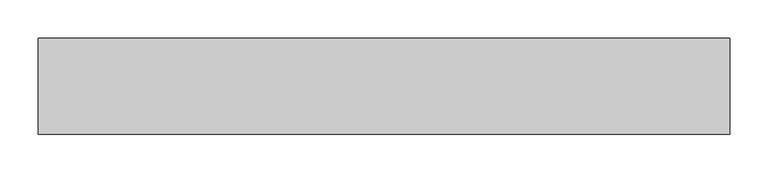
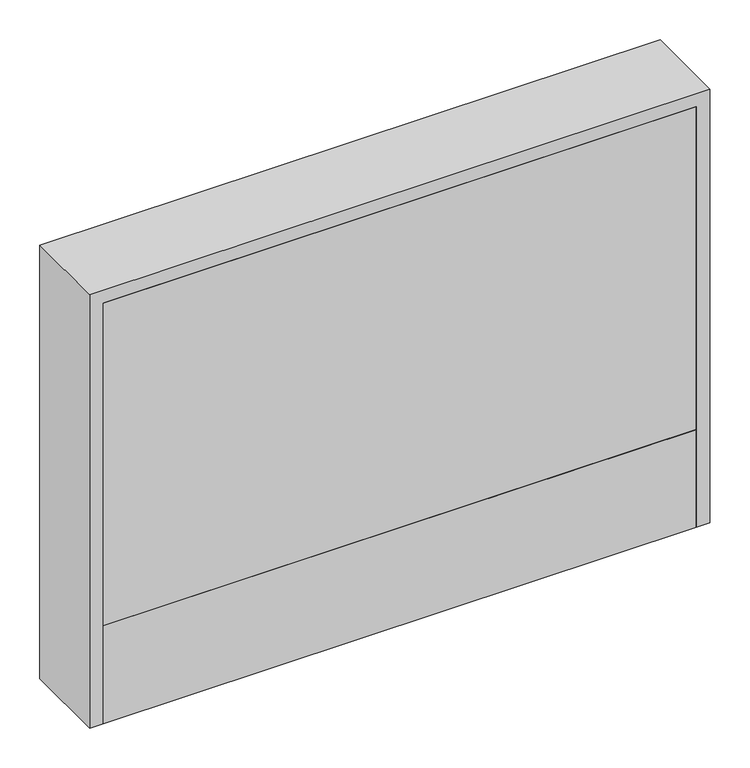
"""IFC4 building model written with IfcOpenShell, lengths in millimetres: valve geometry, PL AT Cabinet above plaster : FT-AK3 10-15 manifold loops."""

from ifc_helpers import new_model, si_unit, frame, origin, origin_with_axes, place, context, project, spatial, polyline, outline, extrude, source, transform, mapped, element, save


def valve_d922645e(model_context):
    return source(origin(), model_context, "Body", "SweptSolid", [
        extrude(outline(polyline([(430.0, 0.0), (-430.0, 0.0), (-430.0, 125.0), (430.0, 125.0), (430.0, 0.0)])), origin_with_axes(), (0.0, 0.0, 1.0), 150.0),
        extrude(outline(polyline([(430.0, 0.0), (-430.0, 0.0), (-430.0, 125.0), (430.0, 125.0), (430.0, 0.0)])), frame((0.0, 0.0, 150.0), z_axis=(0.0, 0.0, 1.0), x_axis=(1.0, 0.0, 0.0)), (0.0, 0.0, 1.0), 495.0),
        extrude(outline(polyline([(665.0, 450.0), (665.0, -450.0), (0.0, -450.0), (0.0, -430.0), (645.0, -430.0), (645.0, 430.0), (0.0, 430.0), (0.0, 450.0), (665.0, 450.0)])), frame((0.0, 0.0, 0.0), z_axis=(0.0, 1.0, 0.0), x_axis=(0.0, 0.0, 1.0)), (0.0, 0.0, 1.0), 125.0),
    ])


if __name__ == "__main__":
    model = new_model("IFC4")
    model_context = context("Model", 3, world=origin())
    ifc_project = project(units=[si_unit("LENGTHUNIT", "METRE", prefix="MILLI")], contexts=[model_context])
    site = spatial("IfcSite", under=ifc_project)
    building = spatial("IfcBuilding", under=site)
    placement = place(None, origin())
    valve_shape = valve_d922645e(model_context)
    element("IfcValve", 1, ObjectType="PL AT Cabinet above plaster : FT-AK3 10-15 manifold loops", at=placement, inside=building, context=model_context, shape_type="MappedRepresentation", body=[
        mapped(valve_shape, transform((0.0, 0.0, 0.0), x_axis=(1.0, 0.0, 0.0), y_axis=(0.0, 1.0, 0.0), z_axis=(0.0, 0.0, 1.0))),
    ])
    save(model, "model.ifc")
